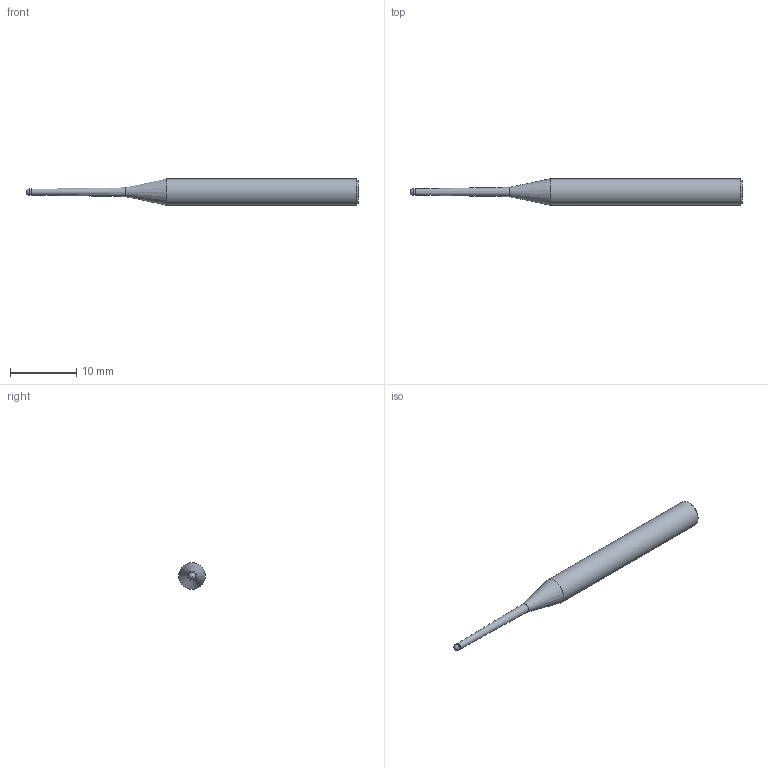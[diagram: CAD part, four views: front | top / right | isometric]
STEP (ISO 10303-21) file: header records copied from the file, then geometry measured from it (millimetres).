
FILE_DESCRIPTION(/* description */ (''),/* implementation_level */ '2;1');
FILE_NAME(/* name */ 'HGXPB2010-15-T0.9 0450.stp',/* time_stamp */ '2026-01-22T08:58:04+08:00',/* author */ (''),/* organization */ (''),/* preprocessor_version */ 'ST-DEVELOPER v16',/* originating_system */ 'SIEMENS PLM Software NX 10.0',/* authorisation */ '');
FILE_SCHEMA (('CONFIG_CONTROL_DESIGN'));
Length unit declared in the file: millimetre
Products named in the file (1): HGXPB2010-15-T0.9 0450_x_t
Bounding box: 50 x 4 x 4 mm (x, y, z)
Volume: 416.4 mm3; surface area: 481.9 mm2
Topology: 1 solids, 1 shells, 9 faces, 16 edges, 9 vertices
Faces by surface type: cylinder 3, cone 3, plane 2, sphere 1
Full cylindrical faces by diameter (mm): 0.95 x1, 1 x1, 4 x1
Entity records: 258 total; most frequent: DIRECTION 36, CARTESIAN_POINT 26, AXIS2_PLACEMENT_3D 18, EDGE_LOOP 16, ORIENTED_EDGE 16, FACE_BOUND 14, ADVANCED_FACE 9, VERTEX_POINT 8
